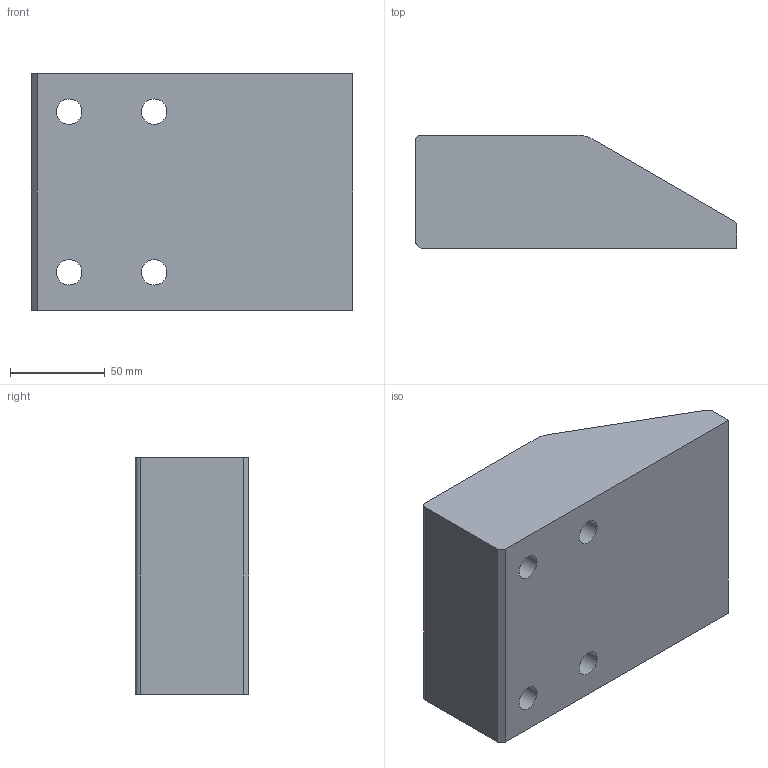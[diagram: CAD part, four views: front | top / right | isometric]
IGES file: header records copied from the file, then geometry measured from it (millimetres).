
Start section: Data from Parasolid IGES Translator 20.0.26, Copyright(c) 2006 Siemens P LM Software. All Rights Reserved.
Global section: file name: G228-01-12517060.igs; native system: By Siemens PLM Incorporated; preprocessor: XPlus GENERIC/IGES 20.0.26; author: Noname; organization: Noname; date: 20190710.094616; units: millimetre
Bounding box: 170 x 60 x 125 mm (x, y, z)
Surface area: 81919.6 mm2 (no closed solid volume)
Topology: 0 solids, 0 shells, 27 faces, 118 edges, 98 vertices
Faces by surface type: revolution 15, extrusion 12
